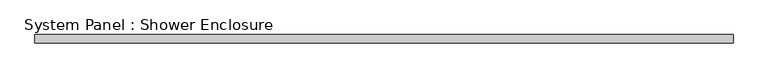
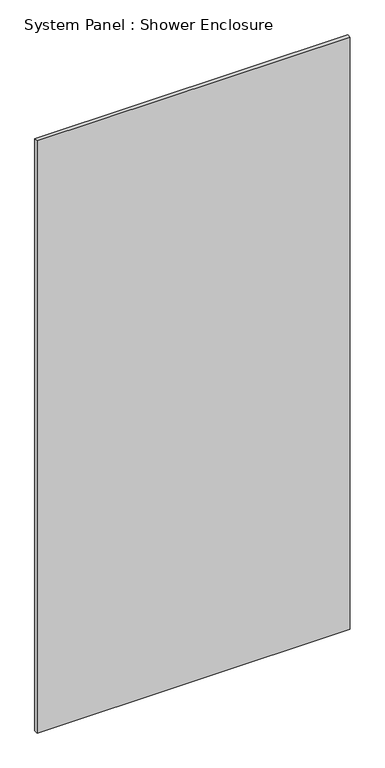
"""IFC4 building model written with IfcOpenShell, lengths in millimetres: plate geometry, System Panel : Shower Enclosure."""

import ifcopenshell
import ifcopenshell.guid

model = None  # the IFC model being written
_history = None  # IfcOwnerHistory: only IFC2X3 demands one
_inside = {}  # id of a spatial element -> (the spatial element, [elements in it])
_under = {}  # id of a project, library or spatial element -> (it, [spatial elements below it])
_declared = {}  # id of a project -> (the project, [libraries it declares])
_typed = {}  # id of a type object -> (the type object, [elements of that type])
_made_of = {}  # id of a material, layer set ... -> (it, [elements and type objects made of it])


def new_model(schema):
    """Start an empty IFC model of exactly this schema.

    Asked for "IFC4X3", IfcOpenShell would pick the latest addendum, in which some entities
    have other attributes; the version numbers below select the first issue.
    IFC2X3 requires an IfcOwnerHistory on every rooted entity: one is made here for all.
    """
    global model, _history
    if schema == "IFC4X3":
        model = ifcopenshell.file(schema_version=(4, 3, 0, 0))
    else:
        model = ifcopenshell.file(schema=schema)
    _inside.clear()
    _under.clear()
    _declared.clear()
    _typed.clear()
    _made_of.clear()
    _history = None
    if model.schema == "IFC2X3":
        org = make("IfcOrganization", Name="unknown")
        user = make(
            "IfcPersonAndOrganization",
            ThePerson=make("IfcPerson", FamilyName="unknown"),
            TheOrganization=org,
        )
        app = make(
            "IfcApplication",
            ApplicationDeveloper=org,
            Version="unknown",
            ApplicationFullName="unknown",
            ApplicationIdentifier="unknown",
        )
        _history = make(
            "IfcOwnerHistory",
            OwningUser=user,
            OwningApplication=app,
            ChangeAction="ADDED",
            CreationDate=0,
        )
    return model


def make(cls, **values):
    """One entity of the class cls with the attributes given. An attribute that is None is left unset."""
    return model.create_entity(
        cls, **{name: value for name, value in values.items() if value is not None}
    )


def rooted(cls, **values):
    """An entity with a GlobalId (a new one), such as an element, a storey or a relation."""
    return make(cls, GlobalId=ifcopenshell.guid.new(), OwnerHistory=_history, **values)


def si_unit(unit_type, name, prefix=None):
    """IfcSIUnit, for example si_unit("LENGTHUNIT", "METRE", prefix="MILLI")."""
    return make("IfcSIUnit", UnitType=unit_type, Prefix=prefix, Name=name)


def assignment(units):
    """IfcUnitAssignment: the units of a project."""
    return None if units is None else make("IfcUnitAssignment", Units=units)


def point(xyz):
    """IfcCartesianPoint."""
    return None if xyz is None else make("IfcCartesianPoint", Coordinates=xyz)


def direction(xyz):
    """IfcDirection."""
    return None if xyz is None else make("IfcDirection", DirectionRatios=xyz)


def frame(location, z_axis=None, x_axis=None):
    """IfcAxis2Placement3D, a coordinate frame: its origin and axes. An axis left out is left unset."""
    return make(
        "IfcAxis2Placement3D",
        Location=point(location),
        Axis=direction(z_axis),
        RefDirection=direction(x_axis),
    )


def origin():
    """The frame at (0, 0, 0) with its axes left unset."""
    return frame((0.0, 0.0, 0.0))


def origin_with_axes():
    """The frame at (0, 0, 0) with the z axis (0, 0, 1) and the x axis (1, 0, 0) written out."""
    return frame((0.0, 0.0, 0.0), z_axis=(0.0, 0.0, 1.0), x_axis=(1.0, 0.0, 0.0))


def place(relative_to, where):
    """IfcLocalPlacement: puts the frame where relative to a parent placement (None: the world)."""
    return make(
        "IfcLocalPlacement", PlacementRelTo=relative_to, RelativePlacement=where
    )


def context(
    kind, dimensions, precision=None, world=None, true_north=None, identifier=None
):
    """IfcGeometricRepresentationContext, for example the 3D "Model" context."""
    return make(
        "IfcGeometricRepresentationContext",
        ContextIdentifier=identifier,
        ContextType=kind,
        CoordinateSpaceDimension=dimensions,
        Precision=precision,
        WorldCoordinateSystem=world,
        TrueNorth=true_north,
    )


def project(units=None, contexts=None):
    """IfcProject with its units and contexts."""
    return rooted(
        "IfcProject",
        Name="project",
        RepresentationContexts=contexts,
        UnitsInContext=assignment(units),
    )


def spatial(cls, under=None, at=None, **own):
    """A site, building, storey or space (cls), placed at a placement, below another one or the project."""
    s = rooted(cls, ObjectPlacement=at, **own)
    if under is not None:
        _under.setdefault(under.id(), (under, []))[1].append(s)
    return s


def polyline(points):
    """IfcPolyline through the points."""
    return make("IfcPolyline", Points=[point(p) for p in points])


def outline(outer, holes=None, kind="AREA"):
    """IfcArbitraryClosedProfileDef: a profile drawn as a closed curve; with holes, ...WithVoids."""
    if holes is None:
        return make("IfcArbitraryClosedProfileDef", ProfileType=kind, OuterCurve=outer)
    return make(
        "IfcArbitraryProfileDefWithVoids",
        ProfileType=kind,
        OuterCurve=outer,
        InnerCurves=holes,
    )


def extrude(swept, where, along, depth):
    """IfcExtrudedAreaSolid: the profile swept, set in the frame where, extruded along a direction by depth."""
    return make(
        "IfcExtrudedAreaSolid",
        SweptArea=swept,
        Position=where,
        ExtrudedDirection=direction(along),
        Depth=depth,
    )


def shape(context_of_items, identifier, shape_type, items):
    """IfcShapeRepresentation: the items that make up one representation, for example the "Body"."""
    return make(
        "IfcShapeRepresentation",
        ContextOfItems=context_of_items,
        RepresentationIdentifier=identifier,
        RepresentationType=shape_type,
        Items=items,
    )


def source(mapping_origin, context_of_items, identifier, shape_type, items):
    """IfcRepresentationMap: a shape defined once, which mapped items show again and again."""
    return make(
        "IfcRepresentationMap",
        MappingOrigin=mapping_origin,
        MappedRepresentation=shape(context_of_items, identifier, shape_type, items),
    )


def transform(
    local_origin,
    x_axis=None,
    y_axis=None,
    z_axis=None,
    scale=None,
    scale2=None,
    scale3=None,
    uniform=True,
):
    """IfcCartesianTransformationOperator3D, or its non-uniform kind. x_axis, y_axis, z_axis: its Axis1, 2, 3."""
    if uniform:
        return make(
            "IfcCartesianTransformationOperator3D",
            Axis1=direction(x_axis),
            Axis2=direction(y_axis),
            LocalOrigin=point(local_origin),
            Scale=scale,
            Axis3=direction(z_axis),
        )
    return make(
        "IfcCartesianTransformationOperator3DnonUniform",
        Axis1=direction(x_axis),
        Axis2=direction(y_axis),
        LocalOrigin=point(local_origin),
        Scale=scale,
        Axis3=direction(z_axis),
        Scale2=scale2,
        Scale3=scale3,
    )


def mapped(mapping_source, mapping_target):
    """IfcMappedItem: shows the shape of a source again, moved by a transform."""
    return make(
        "IfcMappedItem", MappingSource=mapping_source, MappingTarget=mapping_target
    )


def made_of(thing, what):
    """Note that an element or type object is made of a material, layer set ...; save() writes the relation."""
    if what is not None:
        _made_of.setdefault(what.id(), (what, []))[1].append(thing)
    return thing


def element(
    cls,
    number,
    at=None,
    inside=None,
    cuts=None,
    type_object=None,
    material=None,
    context=None,
    identifier="Body",
    shape_type=None,
    held_by="IfcProductDefinitionShape",
    body=None,
    shapes=None,
    **own,
):
    """One element of the class cls, such as IfcWall. Its Tag is "e" and its number.

    at: its placement. inside: the storey or other place that contains it. cuts: it is an
    opening in that element (IfcRelVoidsElement). A single representation is given by context,
    identifier, shape_type and body (its items); several are given by shapes. held_by: the class
    of the entity that holds the representations. save() writes the other relations.
    """
    e = rooted(cls, Tag="e%d" % number, ObjectPlacement=at, **own)
    if body is not None:
        shapes = [shape(context, identifier, shape_type, body)]
    if shapes is not None:
        e.Representation = make(held_by, Representations=shapes)
    if inside is not None:
        _inside.setdefault(inside.id(), (inside, []))[1].append(e)
    if cuts is not None:
        rooted(
            "IfcRelVoidsElement", RelatingBuildingElement=cuts, RelatedOpeningElement=e
        )
    if type_object is not None:
        _typed.setdefault(type_object.id(), (type_object, []))[1].append(e)
    return made_of(e, material)


def aggregate(whole, parts):
    """IfcRelAggregates: a whole, such as a stair, and the parts it consists of."""
    return rooted("IfcRelAggregates", RelatingObject=whole, RelatedObjects=parts)


def save(model, path):
    """Write the relations noted so far, then the file.

    IfcRelAggregates (storeys below a building ...), IfcRelContainedInSpatialStructure (elements
    in a storey), IfcRelDefinesByType, IfcRelAssociatesMaterial and IfcRelDeclares: one each for
    every whole, place, type object, material and project.
    """
    for whole, parts in _under.values():
        aggregate(whole, parts)
    for where, things in _inside.values():
        rooted(
            "IfcRelContainedInSpatialStructure",
            RelatedElements=things,
            RelatingStructure=where,
        )
    for kind, things in _typed.values():
        rooted("IfcRelDefinesByType", RelatedObjects=things, RelatingType=kind)
    for what, things in _made_of.values():
        rooted("IfcRelAssociatesMaterial", RelatedObjects=things, RelatingMaterial=what)
    for by, libraries in _declared.values():
        rooted("IfcRelDeclares", RelatingContext=by, RelatedDefinitions=libraries)
    model.write(path)


def system_panel_shower_enclosure_034c214d(model_context):
    return source(origin(), model_context, "Body", "SweptSolid", [
        extrude(outline(polyline([(533.4, -12.7), (-533.4, -12.7), (-533.4, 0.0), (533.4, 0.0), (533.4, -12.7)])), origin_with_axes(), (0.0, 0.0, 1.0), 2133.6),
    ])


if __name__ == "__main__":
    model = new_model("IFC4")
    model_context = context("Model", 3, world=origin())
    ifc_project = project(units=[si_unit("LENGTHUNIT", "METRE", prefix="MILLI")], contexts=[model_context])
    site = spatial("IfcSite", under=ifc_project)
    building = spatial("IfcBuilding", under=site)
    placement = place(None, origin())
    system_panel_shower_enclosure_shape = system_panel_shower_enclosure_034c214d(model_context)
    element("IfcPlate", 1, ObjectType="System Panel : Shower Enclosure", at=placement, inside=building, context=model_context, shape_type="MappedRepresentation", body=[
        mapped(system_panel_shower_enclosure_shape, transform((0.0, 0.0, 0.0), x_axis=(1.0, 0.0, 0.0), y_axis=(0.0, 1.0, 0.0), z_axis=(0.0, 0.0, 1.0))),
    ])
    save(model, "model.ifc")
